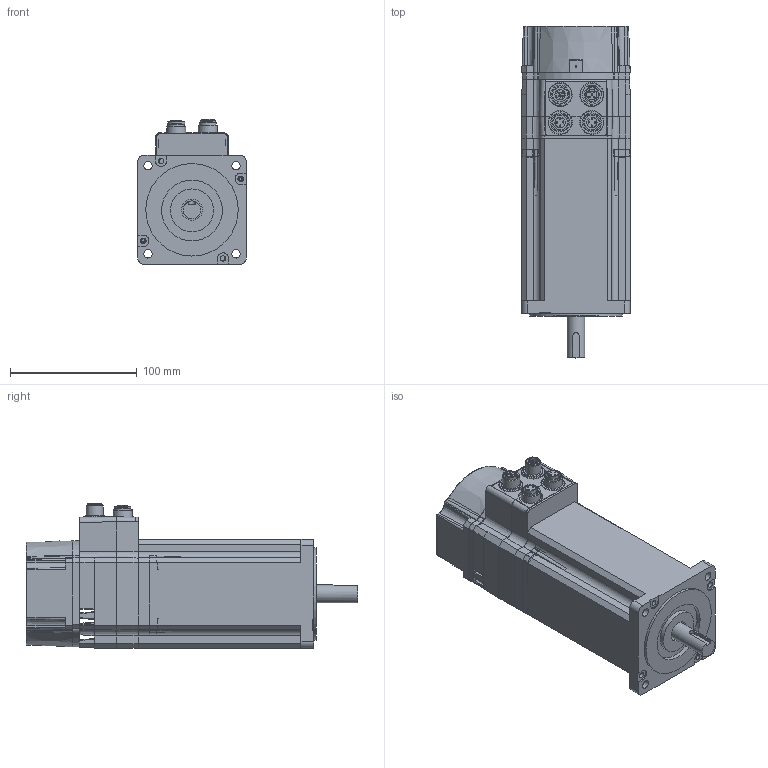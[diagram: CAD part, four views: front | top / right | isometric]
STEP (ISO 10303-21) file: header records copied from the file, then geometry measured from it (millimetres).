
FILE_DESCRIPTION( ( 'Unknown' ), '1' );
FILE_NAME( 'K:/JVL/MISxx/MIS34x/CAD internet tegninger/Original/MIS343C37xxxx85.stp', 'Unknown', ( 'Unknown' ), ( 'Unknown' ), 'PSStep 11.0', 'Unknown', ' ' );
FILE_SCHEMA( ( 'AUTOMOTIVE_DESIGN { 1 0 10303 214 1 1 1 1 }' ) );
Length unit declared in the file: millimetre
Products named in the file (7): Assem1; MIS343C14xxxx85; MM3844 V1_1; MM3845 V1_1
Bounding box: 86.41 x 262.1 x 114.53 mm (x, y, z)
Volume: 2605533.9 mm3; surface area: 344876 mm2
Topology: 12 solids, 16 shells, 2630 faces, 6364 edges, 3948 vertices
Faces by surface type: plane 1292, cylinder 926, sphere 218, cone 86, bspline 56, torus 44, extrusion 8
Full cylindrical faces by diameter (mm): 0.7 x34, 1 x36, 2.459 x8, 3 x10, 3.242 x6, 3.5 x8, 4 x2, 4.3 x8, 4.4 x8, 4.5 x8, 6.6 x8, 7 x8, 8.2 x2, 10.6 x2, 11.5 x6, 12 x2, 13.3 x4, 13.6 x2, 14 x2, 16 x2, 16.5 x2, 18 x10, 19 x12, 34 x2, 48 x2, 73 x2
Entity records: 49084 total; most frequent: CARTESIAN_POINT 7798, DIRECTION 6627, ORIENTED_EDGE 6052, EDGE_CURVE 3026, AXIS2_PLACEMENT_3D 2389, VERTEX_POINT 1927, VECTOR 1849, LINE 1845
